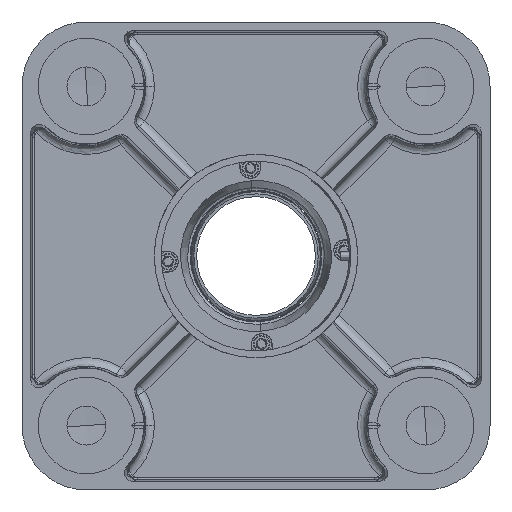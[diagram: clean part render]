
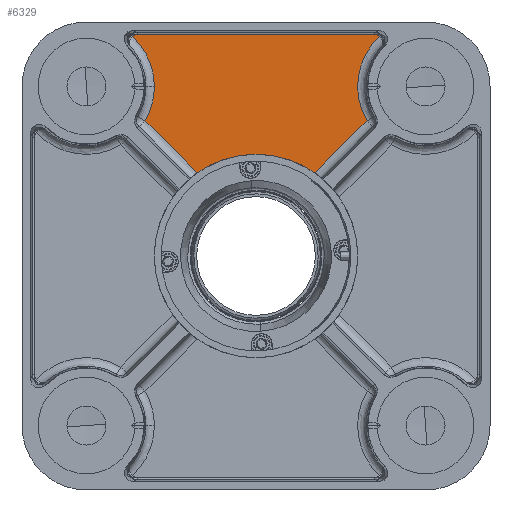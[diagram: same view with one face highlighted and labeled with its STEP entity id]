
A CAD part, front view. The second image highlights one B-rep face of the part: STEP entity #6329.
In plain terms, the highlighted planar face has unit normal (0, -1, 0).
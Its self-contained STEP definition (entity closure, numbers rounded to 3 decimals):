
#1435 = CARTESIAN_POINT ( 'NONE',  ( -99.987, 45., -59.938 ) ) ;
#1982 = ORIENTED_EDGE ( 'NONE', *, *, #32195, .F. ) ;
#2228 = CARTESIAN_POINT ( 'NONE',  ( -130.63, 45., 71.468 ) ) ;
#3006 = VECTOR ( 'NONE', #35680, 1000. ) ;
#3070 = ORIENTED_EDGE ( 'NONE', *, *, #11824, .T. ) ;
#3471 = DIRECTION ( 'NONE',  ( 0.707, 0., 0.707 ) ) ;
#3577 = EDGE_CURVE ( 'NONE', #17293, #20973, #9919, .T. ) ;
#3652 = CARTESIAN_POINT ( 'NONE',  ( -99.987, 45., 99.987 ) ) ;
#4377 = CARTESIAN_POINT ( 'NONE',  ( -129.611, 45., -73.036 ) ) ;
#4481 = VERTEX_POINT ( 'NONE', #1435 ) ;
#5811 = ORIENTED_EDGE ( 'NONE', *, *, #28934, .T. ) ;
#5939 = ORIENTED_EDGE ( 'NONE', *, *, #13924, .T. ) ;
#5942 = CARTESIAN_POINT ( 'NONE',  ( -130.29, 45., 72.197 ) ) ;
#6329 = ADVANCED_FACE ( 'NONE', ( #21631 ), #7555, .F. ) ;
#6874 = CIRCLE ( 'NONE', #10341, 40.049 ) ;
#7108 = VECTOR ( 'NONE', #40044, 1000. ) ;
#7138 = AXIS2_PLACEMENT_3D ( 'NONE', #17081, #13811, #27075 ) ;
#7251 = CARTESIAN_POINT ( 'NONE',  ( -130.63, 45., -71.468 ) ) ;
#7555 = PLANE ( 'NONE',  #39197 ) ;
#7671 = CARTESIAN_POINT ( 'NONE',  ( -130.846, 45., -70.415 ) ) ;
#7744 = CARTESIAN_POINT ( 'NONE',  ( -79.68, 45., -65.468 ) ) ;
#7845 = VECTOR ( 'NONE', #3471, 1000. ) ;
#8530 = DIRECTION ( 'NONE',  ( 0., 0., 1. ) ) ;
#8784 = CARTESIAN_POINT ( 'NONE',  ( -130.711, 45., 71.207 ) ) ;
#8945 = CARTESIAN_POINT ( 'NONE',  ( -7.106, 45., -7.106 ) ) ;
#9919 = CIRCLE ( 'NONE', #7138, 60. ) ;
#10341 = AXIS2_PLACEMENT_3D ( 'NONE', #3652, #13252, #26513 ) ;
#10502 = CARTESIAN_POINT ( 'NONE',  ( -130.846, 45., -70.143 ) ) ;
#10720 = VERTEX_POINT ( 'NONE', #4377 ) ;
#10944 = CARTESIAN_POINT ( 'NONE',  ( -129.984, 45., -72.64 ) ) ;
#11027 = VERTEX_POINT ( 'NONE', #36525 ) ;
#11246 = DIRECTION ( 'NONE',  ( 0., 0., 1. ) ) ;
#11824 = EDGE_CURVE ( 'NONE', #20973, #40512, #38909, .T. ) ;
#12052 = CARTESIAN_POINT ( 'NONE',  ( -129.611, 45., 73.036 ) ) ;
#12203 = ORIENTED_EDGE ( 'NONE', *, *, #24812, .T. ) ;
#12426 = CARTESIAN_POINT ( 'NONE',  ( -99.987, 45., -99.987 ) ) ;
#13106 = LINE ( 'NONE', #26808, #7108 ) ;
#13252 = DIRECTION ( 'NONE',  ( 0., 1., 0. ) ) ;
#13811 = DIRECTION ( 'NONE',  ( 0., 1., 0. ) ) ;
#13924 = EDGE_CURVE ( 'NONE', #40512, #23914, #6874, .T. ) ;
#14367 = AXIS2_PLACEMENT_3D ( 'NONE', #12426, #38918, #8530 ) ;
#14428 = CARTESIAN_POINT ( 'NONE',  ( -130.711, 45., -71.207 ) ) ;
#15106 = DIRECTION ( 'NONE',  ( 0., 0., 1. ) ) ;
#15180 = EDGE_LOOP ( 'NONE', ( #25862, #21199, #3070, #5939, #41310, #1982, #5811, #15479, #12203 ) ) ;
#15479 = ORIENTED_EDGE ( 'NONE', *, *, #23158, .T. ) ;
#15521 = DIRECTION ( 'NONE',  ( 0., 1., 0. ) ) ;
#17081 = CARTESIAN_POINT ( 'NONE',  ( 0., 45., 0. ) ) ;
#17293 = VERTEX_POINT ( 'NONE', #37773 ) ;
#17987 = DIRECTION ( 'NONE',  ( 0., 1., 0. ) ) ;
#20211 = B_SPLINE_CURVE_WITH_KNOTS ( 'NONE', 3,
 ( #12052, #25306, #38542, #5942, #32471, #2228, #8784, #42031, #25522, #38751 ),
 .UNSPECIFIED., .F., .F.,
 ( 4, 2, 2, 2, 4 ),
 ( 0., 0.001, 0.002, 0.002, 0.003 ),
 .UNSPECIFIED. ) ;
#20518 = CARTESIAN_POINT ( 'NONE',  ( -130.419, 45., -71.963 ) ) ;
#20973 = VERTEX_POINT ( 'NONE', #39010 ) ;
#21199 = ORIENTED_EDGE ( 'NONE', *, *, #3577, .T. ) ;
#21213 = CARTESIAN_POINT ( 'NONE',  ( -79.68, 45., 65.468 ) ) ;
#21583 = AXIS2_PLACEMENT_3D ( 'NONE', #27988, #17987, #11246 ) ;
#21631 = FACE_OUTER_BOUND ( 'NONE', #15180, .T. ) ;
#23158 = EDGE_CURVE ( 'NONE', #10720, #4481, #23554, .T. ) ;
#23554 = CIRCLE ( 'NONE', #21583, 40.049 ) ;
#23914 = VERTEX_POINT ( 'NONE', #27819 ) ;
#24812 = EDGE_CURVE ( 'NONE', #4481, #35670, #33095, .T. ) ;
#25306 = CARTESIAN_POINT ( 'NONE',  ( -129.807, 45., 72.848 ) ) ;
#25522 = CARTESIAN_POINT ( 'NONE',  ( -130.846, 45., 70.415 ) ) ;
#25862 = ORIENTED_EDGE ( 'NONE', *, *, #37316, .T. ) ;
#26188 = VERTEX_POINT ( 'NONE', #26718 ) ;
#26513 = DIRECTION ( 'NONE',  ( 0., 0., 1. ) ) ;
#26718 = CARTESIAN_POINT ( 'NONE',  ( -130.846, 45., -70.143 ) ) ;
#26808 = CARTESIAN_POINT ( 'NONE',  ( -130.846, 45., 0. ) ) ;
#27075 = DIRECTION ( 'NONE',  ( 0., 0., 1. ) ) ;
#27819 = CARTESIAN_POINT ( 'NONE',  ( -129.611, 45., 73.036 ) ) ;
#27988 = CARTESIAN_POINT ( 'NONE',  ( -99.987, 45., -99.987 ) ) ;
#28934 = EDGE_CURVE ( 'NONE', #26188, #10720, #29506, .T. ) ;
#29506 = B_SPLINE_CURVE_WITH_KNOTS ( 'NONE', 3,
 ( #10502, #7671, #37027, #14428, #7251, #20518, #34213, #10944, #30946, #40497 ),
 .UNSPECIFIED., .F., .F.,
 ( 4, 2, 2, 2, 4 ),
 ( 0., 0.001, 0.002, 0.002, 0.003 ),
 .UNSPECIFIED. ) ;
#30946 = CARTESIAN_POINT ( 'NONE',  ( -129.807, 45., -72.848 ) ) ;
#32195 = EDGE_CURVE ( 'NONE', #26188, #11027, #13106, .T. ) ;
#32471 = CARTESIAN_POINT ( 'NONE',  ( -130.419, 45., 71.963 ) ) ;
#33075 = LINE ( 'NONE', #36118, #7845 ) ;
#33095 = CIRCLE ( 'NONE', #14367, 40.049 ) ;
#34213 = CARTESIAN_POINT ( 'NONE',  ( -130.29, 45., -72.197 ) ) ;
#35670 = VERTEX_POINT ( 'NONE', #7744 ) ;
#35680 = DIRECTION ( 'NONE',  ( -0.707, 0., 0.707 ) ) ;
#36118 = CARTESIAN_POINT ( 'NONE',  ( -7.106, 45., 7.106 ) ) ;
#36525 = CARTESIAN_POINT ( 'NONE',  ( -130.846, 45., 70.143 ) ) ;
#37027 = CARTESIAN_POINT ( 'NONE',  ( -130.818, 45., -70.682 ) ) ;
#37316 = EDGE_CURVE ( 'NONE', #35670, #17293, #33075, .T. ) ;
#37773 = CARTESIAN_POINT ( 'NONE',  ( -48.933, 45., -34.721 ) ) ;
#38161 = EDGE_CURVE ( 'NONE', #23914, #11027, #20211, .T. ) ;
#38542 = CARTESIAN_POINT ( 'NONE',  ( -129.984, 45., 72.64 ) ) ;
#38751 = CARTESIAN_POINT ( 'NONE',  ( -130.846, 45., 70.143 ) ) ;
#38754 = CARTESIAN_POINT ( 'NONE',  ( 0., 45., 0. ) ) ;
#38909 = LINE ( 'NONE', #8945, #3006 ) ;
#38918 = DIRECTION ( 'NONE',  ( 0., 1., 0. ) ) ;
#39010 = CARTESIAN_POINT ( 'NONE',  ( -48.933, 45., 34.721 ) ) ;
#39197 = AXIS2_PLACEMENT_3D ( 'NONE', #38754, #15521, #15106 ) ;
#40044 = DIRECTION ( 'NONE',  ( 0., 0., 1. ) ) ;
#40497 = CARTESIAN_POINT ( 'NONE',  ( -129.611, 45., -73.036 ) ) ;
#40512 = VERTEX_POINT ( 'NONE', #21213 ) ;
#41310 = ORIENTED_EDGE ( 'NONE', *, *, #38161, .T. ) ;
#42031 = CARTESIAN_POINT ( 'NONE',  ( -130.818, 45., 70.682 ) ) ;
